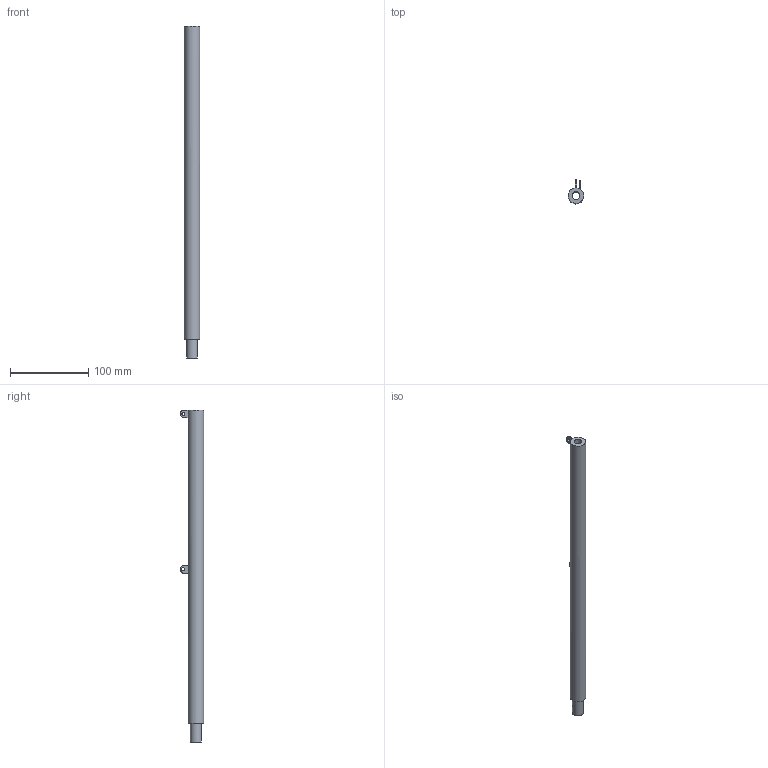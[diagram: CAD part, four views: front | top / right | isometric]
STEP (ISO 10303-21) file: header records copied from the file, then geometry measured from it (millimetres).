
FILE_DESCRIPTION(/* description */ (''),/* implementation_level */ '2;1');
FILE_NAME(/* name */ 'tube1.stp',/* time_stamp */ '2023-11-28T18:39:13+01:00',/* author */ ('filma'),/* organization */ (''),/* preprocessor_version */ 'ST-DEVELOPER v19.2',/* originating_system */ 'Autodesk Inventor 2024',/* authorisation */ '');
FILE_SCHEMA (('AUTOMOTIVE_DESIGN { 1 0 10303 214 3 1 1 }'));
Length unit declared in the file: millimetre
Products named in the file (1): tube1
Bounding box: 20 x 30 x 424 mm (x, y, z)
Volume: 96391.8 mm3; surface area: 40431.5 mm2
Topology: 1 solids, 1 shells, 17 faces, 39 edges, 26 vertices
Faces by surface type: plane 10, cylinder 7
Full cylindrical faces by diameter (mm): 4 x2, 10 x1, 14 x1, 20 x1
Entity records: 546 total; most frequent: DIRECTION 93, CARTESIAN_POINT 83, ORIENTED_EDGE 78, EDGE_CURVE 39, AXIS2_PLACEMENT_3D 36, VERTEX_POINT 26, EDGE_LOOP 25, LINE 21
